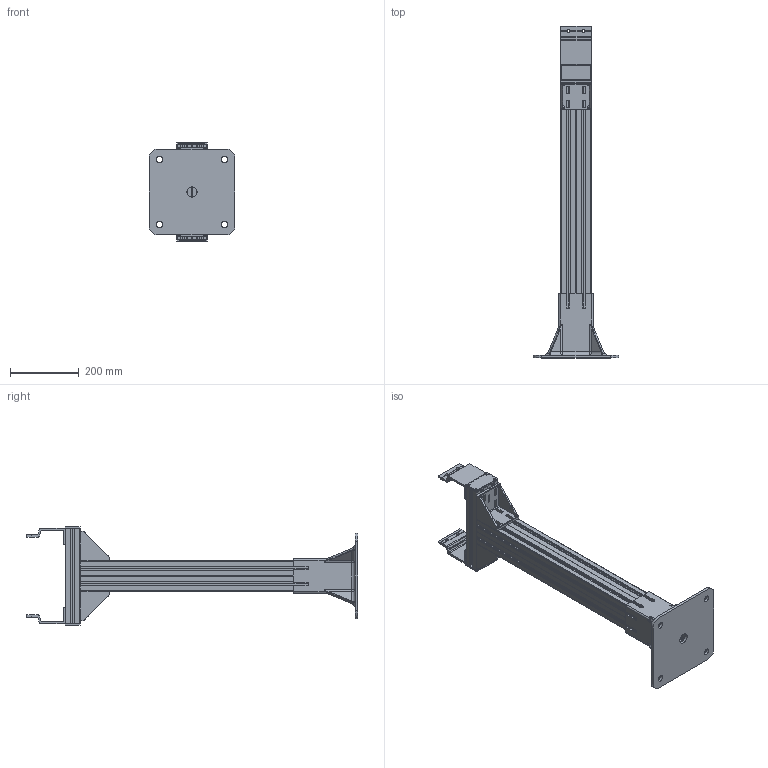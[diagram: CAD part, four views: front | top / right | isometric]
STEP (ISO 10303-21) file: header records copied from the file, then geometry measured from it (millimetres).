
FILE_DESCRIPTION (( 'STEP AP214' ), '1' );
FILE_NAME ('F2-750-PC88.STEP', '2010-03-11T09:13:40', ( '.' ), ( '' ), 'SwSTEP 2.0', 'SolidWorks 2009', '' );
FILE_SCHEMA (( 'AUTOMOTIVE_DESIGN' ));
Length unit declared in the file: millimetre
Products named in the file (1): F2-750-PC88
Bounding box: 250 x 966 x 289 mm (x, y, z)
Surface area: 905215.1 mm2 (no closed solid volume)
Topology: 0 solids, 42 shells, 549 faces, 2746 edges, 2166 vertices
Faces by surface type: plane 299, cylinder 204, bspline 38, sphere 8
Entity records: 38089 total; most frequent: CARTESIAN_POINT 11194, DIRECTION 4239, ORIENTED_EDGE 3692, EDGE_CURVE 2726, VERTEX_POINT 2166, VECTOR 1711, LINE 1711, AXIS2_PLACEMENT_3D 1264
